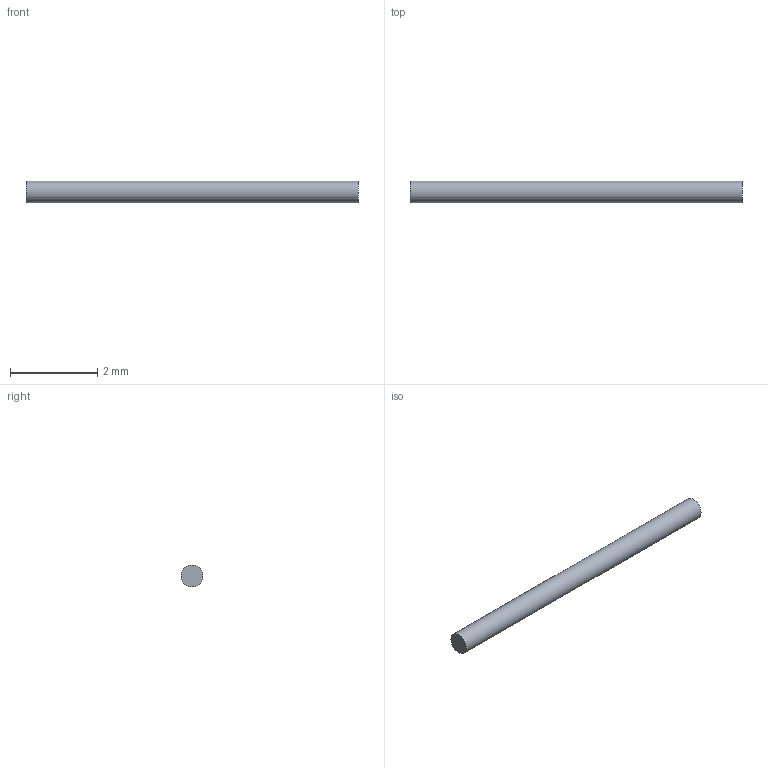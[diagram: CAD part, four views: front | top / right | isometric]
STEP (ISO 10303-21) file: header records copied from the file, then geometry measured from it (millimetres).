
FILE_DESCRIPTION(('FreeCAD Model'),'2;1');
FILE_NAME('Open CASCADE Shape Model','2026-04-07T19:07:43',('FreeCAD'),( 'FreeCAD'),'Open CASCADE STEP processor 7.8','FreeCAD','Unknown');
FILE_SCHEMA(('AUTOMOTIVE_DESIGN { 1 0 10303 214 1 1 1 1 }'));
Length unit declared in the file: millimetre
Products named in the file (1): Open CASCADE STEP translator 7.8 18
Bounding box: 7.62 x 0.5 x 0.5 mm (x, y, z)
Volume: 1.5 mm3; surface area: 12.4 mm2
Topology: 1 solids, 1 shells, 3 faces, 3 edges, 2 vertices
Faces by surface type: plane 2, cylinder 1
Full cylindrical faces by diameter (mm): 0.5 x1
Entity records: 69 total; most frequent: DIRECTION 13, CARTESIAN_POINT 9, AXIS2_PLACEMENT_3D 6, ORIENTED_EDGE 6, ADVANCED_FACE 3, FACE_BOUND 3, EDGE_LOOP 3, EDGE_CURVE 3
